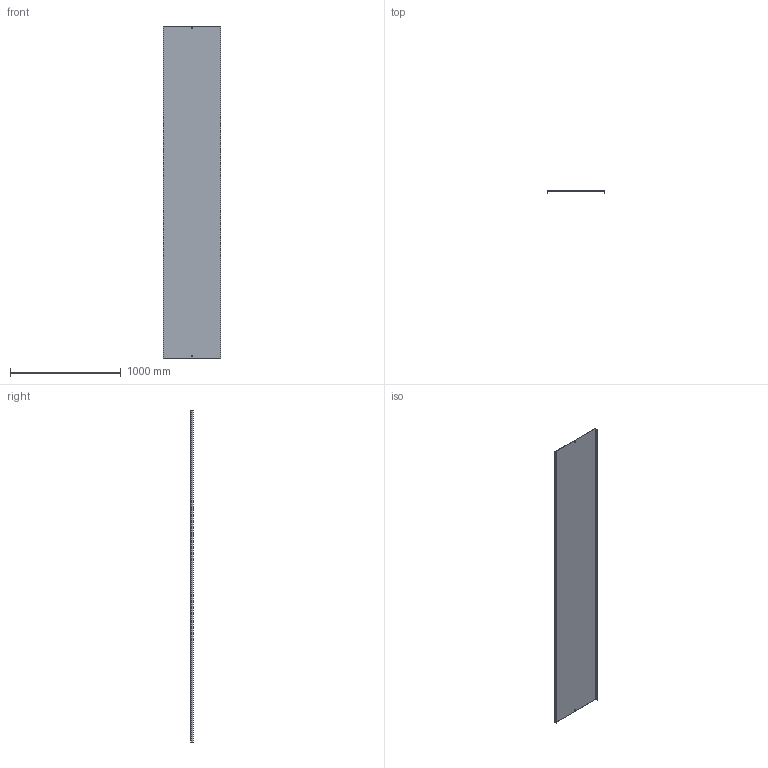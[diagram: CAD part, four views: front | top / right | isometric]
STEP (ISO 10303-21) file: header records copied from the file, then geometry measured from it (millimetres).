
FILE_DESCRIPTION (( 'STEP AP214' ), '1' );
FILE_NAME ('05G3P500.step', '2025-02-21T14:22:30', ( '' ), ( '' ), 'SwSTEP 2.0', 'SolidWorks 2023', '' );
FILE_SCHEMA (( 'AUTOMOTIVE_DESIGN' ));
Length unit declared in the file: millimetre
Products named in the file (1): 05G3P500
Bounding box: 523 x 20 x 3000 mm (x, y, z)
Volume: 2519824.5 mm3; surface area: 3370539 mm2
Topology: 1 solids, 1 shells, 18 faces, 48 edges, 32 vertices
Faces by surface type: plane 18
Entity records: 583 total; most frequent: CARTESIAN_POINT 99, ORIENTED_EDGE 96, DIRECTION 86, VECTOR 48, EDGE_CURVE 48, LINE 48, VERTEX_POINT 32, EDGE_LOOP 22
